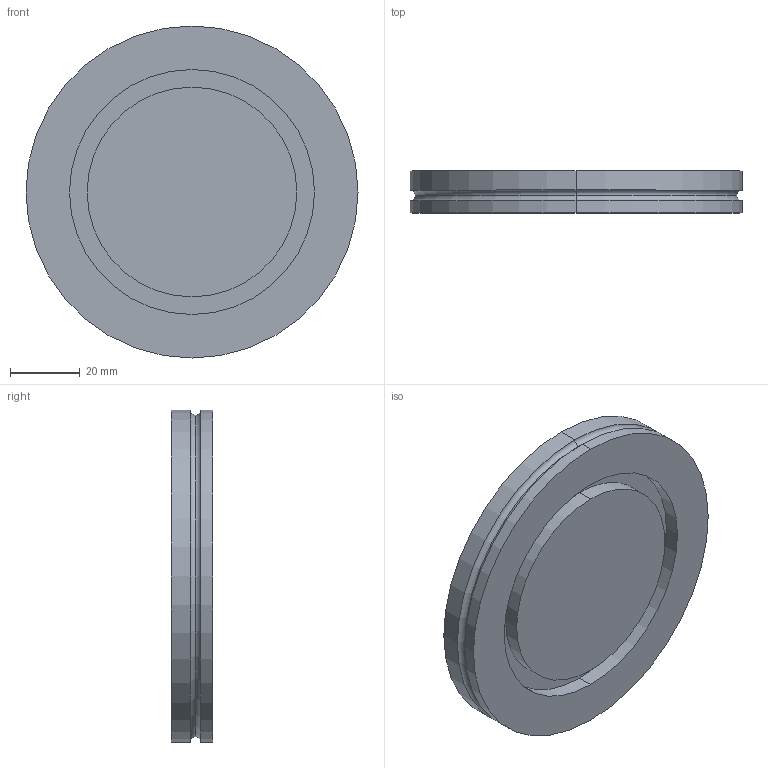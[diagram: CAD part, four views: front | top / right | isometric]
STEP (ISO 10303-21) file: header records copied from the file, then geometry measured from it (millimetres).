
FILE_DESCRIPTION (( 'STEP AP214' ), '1' );
FILE_NAME ('W4BF63.STEP', '2019-03-27T07:16:55', ( '' ), ( '' ), 'SwSTEP 2.0', 'SolidWorks 2018', '' );
FILE_SCHEMA (( 'AUTOMOTIVE_DESIGN' ));
Length unit declared in the file: millimetre
Products named in the file (1): W4BF63
Bounding box: 95 x 12 x 95 mm (x, y, z)
Volume: 76419.2 mm3; surface area: 21154.3 mm2
Topology: 1 solids, 1 shells, 22 faces, 42 edges, 26 vertices
Faces by surface type: cylinder 12, plane 6, torus 4
Entity records: 602 total; most frequent: DIRECTION 118, CARTESIAN_POINT 91, ORIENTED_EDGE 84, AXIS2_PLACEMENT_3D 53, EDGE_CURVE 42, CIRCLE 30, VERTEX_POINT 26, EDGE_LOOP 26
